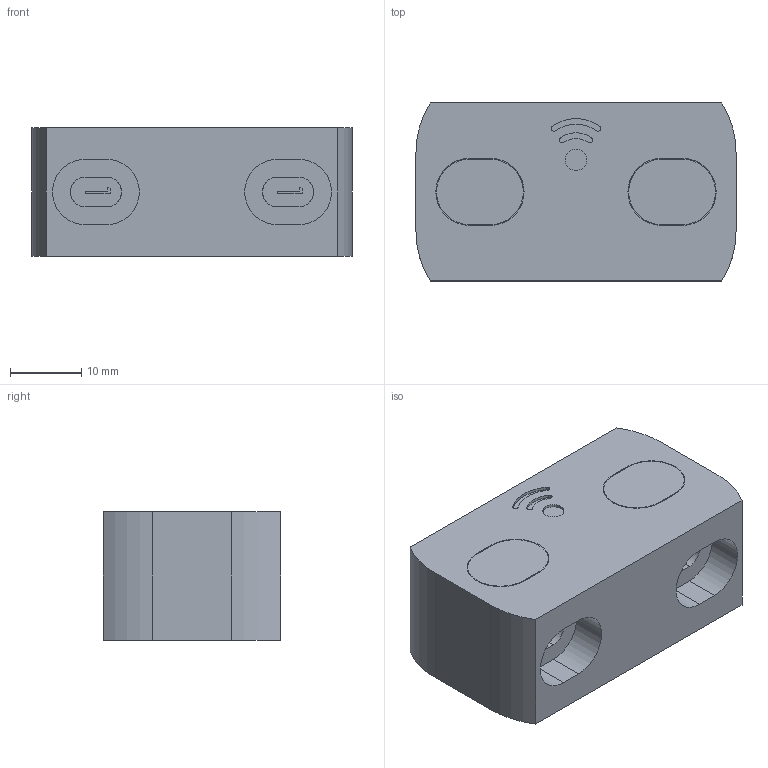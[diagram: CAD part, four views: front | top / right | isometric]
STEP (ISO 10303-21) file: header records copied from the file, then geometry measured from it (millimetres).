
FILE_DESCRIPTION(/* description */ (''),/* implementation_level */ '2;1');
FILE_NAME(/* name */ '3DCAD_RD800_x_Actuator.stp',/* time_stamp */ '2025-08-26T13:48:30+02:00',/* author */ ('CC2'),/* organization */ ('Leuze electronic'),/* preprocessor_version */ 'ST-DEVELOPER v19.4',/* originating_system */ 'SIEMENS PLM Software NX2306.9180',/* authorisation */ '');
FILE_SCHEMA (('AUTOMOTIVE_DESIGN { 1 0 10303 214 3 1 1 1 }'));
Length unit declared in the file: millimetre
Products named in the file (1): 17-110719_00_1-3DCAD_RD800_x_Actuator
Bounding box: 45 x 25 x 18 mm (x, y, z)
Volume: 16462.2 mm3; surface area: 10122.5 mm2
Topology: 13 solids, 13 shells, 394 faces, 899 edges, 553 vertices
Faces by surface type: plane 196, cylinder 150, torus 36, cone 12
Full cylindrical faces by diameter (mm): 3 x2
Entity records: 11833 total; most frequent: CARTESIAN_POINT 2665, DIRECTION 1962, ORIENTED_EDGE 1792, EDGE_CURVE 896, AXIS2_PLACEMENT_3D 701, LINE 560, VECTOR 560, VERTEX_POINT 552
